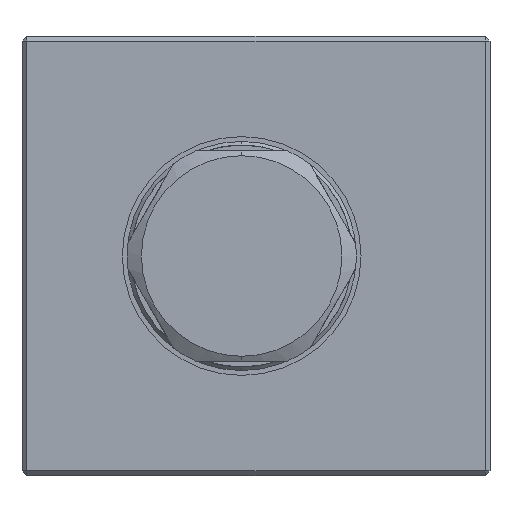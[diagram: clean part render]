
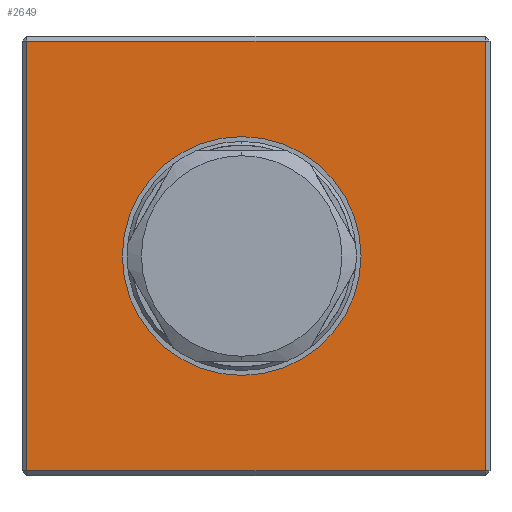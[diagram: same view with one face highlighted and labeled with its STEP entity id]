
A CAD part, left-side view. The second image highlights one B-rep face of the part: STEP entity #2649.
In plain terms, the highlighted planar face has unit normal (-1, 0, 0).
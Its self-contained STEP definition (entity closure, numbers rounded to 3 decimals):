
#3 = DIRECTION ( 'NONE',  ( 0., 0., -1. ) ) ;
#57 = AXIS2_PLACEMENT_3D ( 'NONE', #3842, #9477, #3 ) ;
#149 = VERTEX_POINT ( 'NONE', #10993 ) ;
#541 = CARTESIAN_POINT ( 'NONE',  ( -34., 48.5, -22.5 ) ) ;
#581 = DIRECTION ( 'NONE',  ( 0., 0., -1. ) ) ;
#614 = EDGE_CURVE ( 'NONE', #4653, #149, #4801, .T. ) ;
#894 = EDGE_CURVE ( 'NONE', #12349, #4653, #1261, .T. ) ;
#1261 = LINE ( 'NONE', #8982, #3054 ) ;
#1463 = VECTOR ( 'NONE', #4917, 1000. ) ;
#1883 = FACE_BOUND ( 'NONE', #7457, .T. ) ;
#2376 = CARTESIAN_POINT ( 'NONE',  ( -34., 48.5, 23. ) ) ;
#2557 = VERTEX_POINT ( 'NONE', #4155 ) ;
#2649 = ADVANCED_FACE ( 'NONE', ( #12281, #1883 ), #3553, .F. ) ;
#2712 = VERTEX_POINT ( 'NONE', #7936 ) ;
#3018 = DIRECTION ( 'NONE',  ( 1., 0., 0. ) ) ;
#3051 = EDGE_LOOP ( 'NONE', ( #8596, #3330, #6787, #9474 ) ) ;
#3054 = VECTOR ( 'NONE', #10736, 1000. ) ;
#3330 = ORIENTED_EDGE ( 'NONE', *, *, #894, .T. ) ;
#3553 = PLANE ( 'NONE',  #4661 ) ;
#3612 = EDGE_CURVE ( 'NONE', #5427, #2557, #7632, .T. ) ;
#3842 = CARTESIAN_POINT ( 'NONE',  ( -34., 26., 0. ) ) ;
#4075 = EDGE_CURVE ( 'NONE', #2557, #5427, #9227, .T. ) ;
#4155 = CARTESIAN_POINT ( 'NONE',  ( -34., 26., -12.5 ) ) ;
#4653 = VERTEX_POINT ( 'NONE', #9967 ) ;
#4661 = AXIS2_PLACEMENT_3D ( 'NONE', #7626, #11446, #10492 ) ;
#4801 = LINE ( 'NONE', #5876, #1463 ) ;
#4917 = DIRECTION ( 'NONE',  ( 0., 0., 1. ) ) ;
#5374 = ORIENTED_EDGE ( 'NONE', *, *, #3612, .T. ) ;
#5427 = VERTEX_POINT ( 'NONE', #9006 ) ;
#5876 = CARTESIAN_POINT ( 'NONE',  ( -34., 0.5, 23. ) ) ;
#6021 = AXIS2_PLACEMENT_3D ( 'NONE', #11595, #3018, #6832 ) ;
#6652 = EDGE_CURVE ( 'NONE', #2712, #12349, #10938, .T. ) ;
#6787 = ORIENTED_EDGE ( 'NONE', *, *, #614, .T. ) ;
#6832 = DIRECTION ( 'NONE',  ( 0., 0., -1. ) ) ;
#7152 = VECTOR ( 'NONE', #10377, 1000. ) ;
#7457 = EDGE_LOOP ( 'NONE', ( #11426, #5374 ) ) ;
#7626 = CARTESIAN_POINT ( 'NONE',  ( -34., 49., 23. ) ) ;
#7632 = CIRCLE ( 'NONE', #57, 12.5 ) ;
#7936 = CARTESIAN_POINT ( 'NONE',  ( -34., 48.5, 22.5 ) ) ;
#8596 = ORIENTED_EDGE ( 'NONE', *, *, #6652, .T. ) ;
#8982 = CARTESIAN_POINT ( 'NONE',  ( -34., 49., -22.5 ) ) ;
#9006 = CARTESIAN_POINT ( 'NONE',  ( -34., 26., 12.5 ) ) ;
#9227 = CIRCLE ( 'NONE', #6021, 12.5 ) ;
#9430 = VECTOR ( 'NONE', #581, 1000. ) ;
#9474 = ORIENTED_EDGE ( 'NONE', *, *, #11714, .T. ) ;
#9477 = DIRECTION ( 'NONE',  ( 1., 0., 0. ) ) ;
#9501 = LINE ( 'NONE', #11088, #7152 ) ;
#9967 = CARTESIAN_POINT ( 'NONE',  ( -34., 0.5, -22.5 ) ) ;
#10377 = DIRECTION ( 'NONE',  ( 0., 1., 0. ) ) ;
#10492 = DIRECTION ( 'NONE',  ( 0., 0., -1. ) ) ;
#10736 = DIRECTION ( 'NONE',  ( 0., -1., 0. ) ) ;
#10938 = LINE ( 'NONE', #2376, #9430 ) ;
#10993 = CARTESIAN_POINT ( 'NONE',  ( -34., 0.5, 22.5 ) ) ;
#11088 = CARTESIAN_POINT ( 'NONE',  ( -34., 49., 22.5 ) ) ;
#11426 = ORIENTED_EDGE ( 'NONE', *, *, #4075, .T. ) ;
#11446 = DIRECTION ( 'NONE',  ( 1., 0., 0. ) ) ;
#11595 = CARTESIAN_POINT ( 'NONE',  ( -34., 26., 0. ) ) ;
#11714 = EDGE_CURVE ( 'NONE', #149, #2712, #9501, .T. ) ;
#12281 = FACE_OUTER_BOUND ( 'NONE', #3051, .T. ) ;
#12349 = VERTEX_POINT ( 'NONE', #541 ) ;
